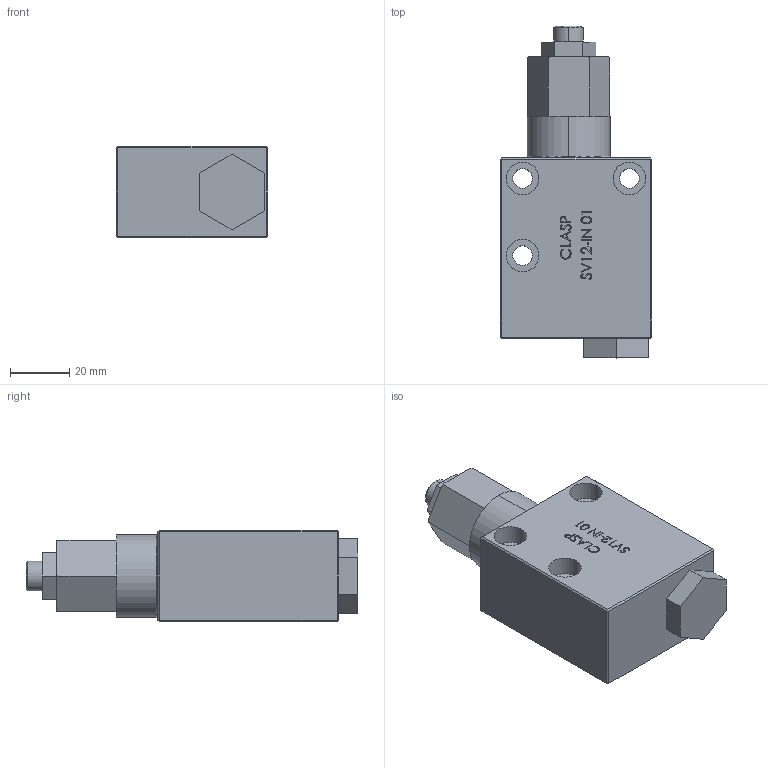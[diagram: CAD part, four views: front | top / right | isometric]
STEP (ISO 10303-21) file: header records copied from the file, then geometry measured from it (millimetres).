
FILE_DESCRIPTION (( 'STEP AP203' ), '1' );
FILE_NAME ('SEQUENCE VALVE SV12-IN01.STEP', '2021-08-09T16:57:42', ( '' ), ( '' ), 'SwSTEP 2.0', 'SolidWorks 2017', '' );
FILE_SCHEMA (( 'CONFIG_CONTROL_DESIGN' ));
Length unit declared in the file: millimetre
Products named in the file (1): SEQUENCE VALVE SV12-IN01
Bounding box: 51 x 111.9 x 30.8 mm (x, y, z)
Volume: 113743.1 mm3; surface area: 19822.2 mm2
Topology: 1 solids, 1 shells, 297 faces, 749 edges, 490 vertices
Faces by surface type: plane 188, bspline 75, cylinder 24, cone 10
Entity records: 13100 total; most frequent: CARTESIAN_POINT 6360, ORIENTED_EDGE 1498, DIRECTION 1091, EDGE_CURVE 749, LINE 529, VECTOR 529, VERTEX_POINT 490, EDGE_LOOP 339
